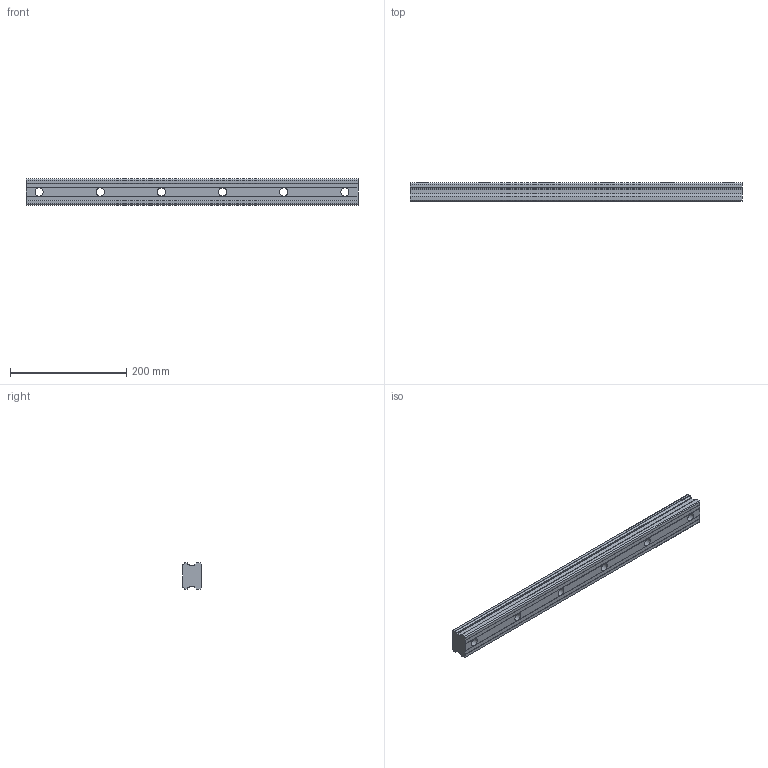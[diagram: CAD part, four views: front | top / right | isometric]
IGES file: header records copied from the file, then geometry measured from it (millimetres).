
Start section: Data from Parasolid IGES Translator 26.0.171, Copyright(c) 2006 Siemens PLM Software. All Rights Reserved.
Global section: file name: SHS45-570L(GK) RAIL(22.5).igs; native system: By Siemens PLM Incorporated; preprocessor: XPlus GENERIC/IGES 26.0.171; author: Noname; organization: Noname; date: 20240514.034235; units: millimetre
Bounding box: 570 x 32 x 45 mm (x, y, z)
Surface area: 99864.9 mm2 (no closed solid volume)
Topology: 0 solids, 0 shells, 68 faces, 360 edges, 342 vertices
Faces by surface type: extrusion 36, revolution 32
